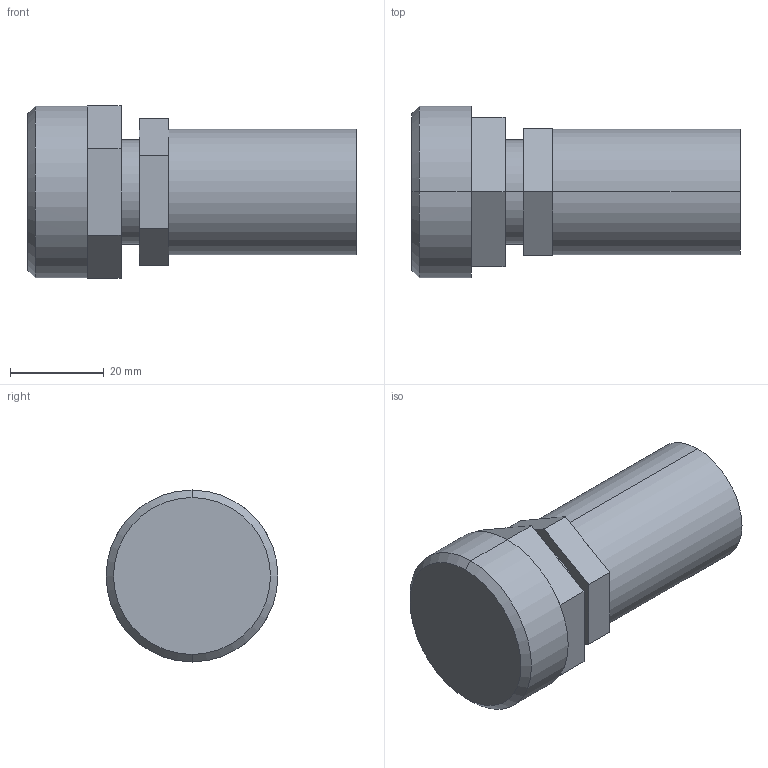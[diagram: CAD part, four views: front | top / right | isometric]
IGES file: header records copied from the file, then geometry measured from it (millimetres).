
Start section: SolidWorks IGES file using analytic representation for surfaces
Global section: file name: S:\Product Visuals\REVISED-30L-TOP-MOUNT-FITTINGS\IGS\top-straight-outlet-only\weldable\12-weldable-with-top-mount-adapter.IGS; native system: SolidWorks 2012; preprocessor: SolidWorks 2012; author: Rachel.Dressel; date: 121128.083335; units: inch
Bounding box: 69.9 x 36.6 x 36.66 mm (x, y, z)
Volume: 47428.7 mm3; surface area: 8944.8 mm2
Topology: 1 solids, 1 shells, 37 faces, 82 edges, 50 vertices
Faces by surface type: plane 29, revolution 8
